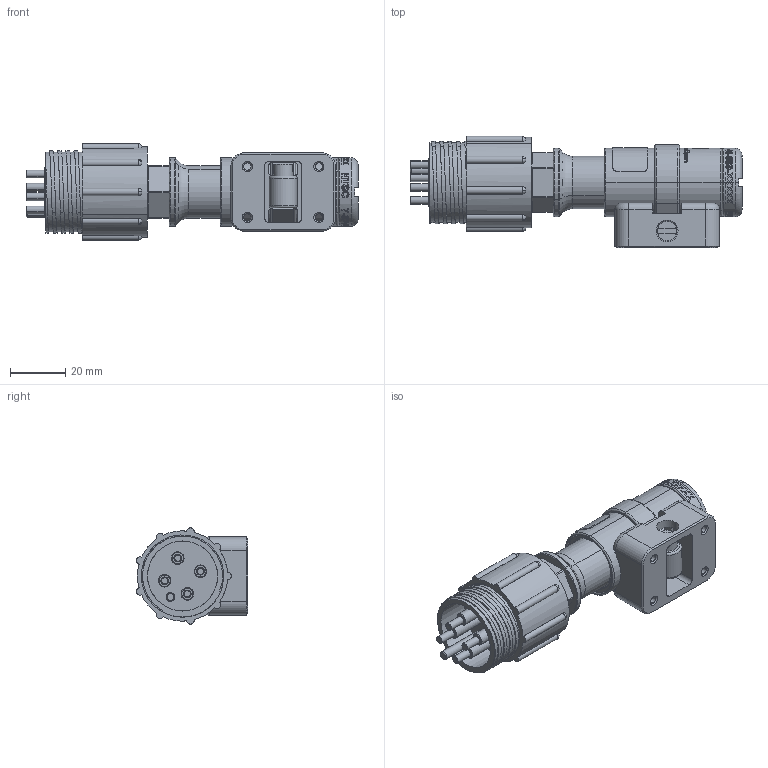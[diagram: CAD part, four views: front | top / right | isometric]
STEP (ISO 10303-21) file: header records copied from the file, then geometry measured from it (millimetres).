
FILE_DESCRIPTION (( 'STEP AP214' ), '1' );
FILE_NAME ('NSC-SUBBH4-0A_11km_20181217a.STEP', '2018-12-17T22:05:53', ( '' ), ( '' ), 'SwSTEP 2.0', 'SolidWorks 2018', '' );
FILE_SCHEMA (( 'AUTOMOTIVE_DESIGN' ));
Length unit declared in the file: millimetre
Products named in the file (1): NSC-SUBBH4-0A_11km_20181217a
Bounding box: 120.62 x 40.38 x 35 mm (x, y, z)
Surface area: 23794.5 mm2 (no closed solid volume)
Topology: 0 solids, 39 shells, 469 faces, 2696 edges, 2274 vertices
Faces by surface type: cylinder 220, plane 89, torus 68, cone 38, bspline 36, sphere 18
Entity records: 43486 total; most frequent: CARTESIAN_POINT 20700, ORIENTED_EDGE 3925, DIRECTION 2685, EDGE_CURVE 2678, VERTEX_POINT 2274, B_SPLINE_CURVE_WITH_KNOTS 1248, AXIS2_PLACEMENT_3D 1105, CIRCLE 671
